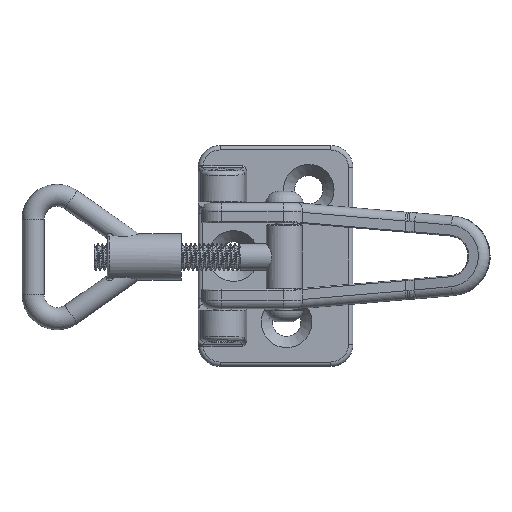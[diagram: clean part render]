
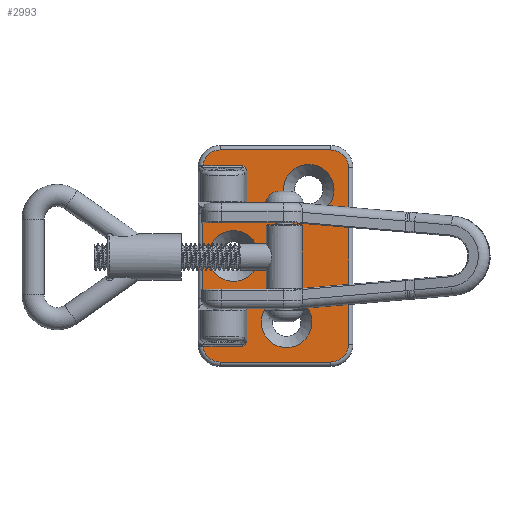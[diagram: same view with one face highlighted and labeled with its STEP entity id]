
A CAD part, top view. The second image highlights one B-rep face of the part: STEP entity #2993.
In plain terms, the highlighted planar face has unit normal (0, 0, 1).
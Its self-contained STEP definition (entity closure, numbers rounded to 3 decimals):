
#128=B_SPLINE_CURVE_WITH_KNOTS('',3,(#4658,#4659,#4660,#4661,#4662),
 .UNSPECIFIED.,.F.,.F.,(4,1,4),(0.,0.001,0.002),
 .UNSPECIFIED.);
#129=B_SPLINE_CURVE_WITH_KNOTS('',3,(#4682,#4683,#4684,#4685,#4686),
 .UNSPECIFIED.,.F.,.F.,(4,1,4),(0.,0.001,0.002),
 .UNSPECIFIED.);
#213=PLANE('',#3260);
#269=CIRCLE('',#3261,5.735);
#270=CIRCLE('',#3262,5.735);
#271=CIRCLE('',#3263,5.735);
#272=CIRCLE('',#3264,4.);
#273=CIRCLE('',#3265,4.);
#274=CIRCLE('',#3266,4.);
#275=CIRCLE('',#3267,4.);
#523=ORIENTED_EDGE('',*,*,#1430,.T.);
#524=ORIENTED_EDGE('',*,*,#1431,.T.);
#525=ORIENTED_EDGE('',*,*,#1432,.T.);
#526=ORIENTED_EDGE('',*,*,#1433,.T.);
#527=ORIENTED_EDGE('',*,*,#1434,.T.);
#528=ORIENTED_EDGE('',*,*,#1435,.T.);
#529=ORIENTED_EDGE('',*,*,#1417,.T.);
#530=ORIENTED_EDGE('',*,*,#1436,.T.);
#531=ORIENTED_EDGE('',*,*,#1437,.T.);
#532=ORIENTED_EDGE('',*,*,#1438,.T.);
#533=ORIENTED_EDGE('',*,*,#1439,.T.);
#534=ORIENTED_EDGE('',*,*,#1440,.T.);
#535=ORIENTED_EDGE('',*,*,#1441,.T.);
#536=ORIENTED_EDGE('',*,*,#1442,.T.);
#537=ORIENTED_EDGE('',*,*,#1443,.T.);
#538=ORIENTED_EDGE('',*,*,#1444,.T.);
#539=ORIENTED_EDGE('',*,*,#1445,.T.);
#540=ORIENTED_EDGE('',*,*,#1446,.T.);
#541=ORIENTED_EDGE('',*,*,#1447,.F.);
#1417=EDGE_CURVE('',#1871,#1870,#2159,.T.);
#1430=EDGE_CURVE('',#1882,#1882,#269,.T.);
#1431=EDGE_CURVE('',#1883,#1883,#270,.T.);
#1432=EDGE_CURVE('',#1884,#1884,#271,.T.);
#1433=EDGE_CURVE('',#1885,#1886,#2167,.T.);
#1434=EDGE_CURVE('',#1886,#1887,#2168,.F.);
#1435=EDGE_CURVE('',#1887,#1871,#2169,.F.);
#1436=EDGE_CURVE('',#1870,#1888,#128,.T.);
#1437=EDGE_CURVE('',#1888,#1889,#2170,.T.);
#1438=EDGE_CURVE('',#1889,#1890,#272,.F.);
#1439=EDGE_CURVE('',#1890,#1891,#2171,.F.);
#1440=EDGE_CURVE('',#1891,#1892,#273,.F.);
#1441=EDGE_CURVE('',#1892,#1893,#2172,.F.);
#1442=EDGE_CURVE('',#1893,#1894,#274,.F.);
#1443=EDGE_CURVE('',#1894,#1895,#2173,.F.);
#1444=EDGE_CURVE('',#1895,#1896,#275,.F.);
#1445=EDGE_CURVE('',#1896,#1897,#2174,.F.);
#1446=EDGE_CURVE('',#1897,#1898,#129,.F.);
#1447=EDGE_CURVE('',#1885,#1898,#2175,.T.);
#1870=VERTEX_POINT('',#4619);
#1871=VERTEX_POINT('',#4621);
#1882=VERTEX_POINT('',#4647);
#1883=VERTEX_POINT('',#4649);
#1884=VERTEX_POINT('',#4651);
#1885=VERTEX_POINT('',#4653);
#1886=VERTEX_POINT('',#4654);
#1887=VERTEX_POINT('',#4656);
#1888=VERTEX_POINT('',#4663);
#1889=VERTEX_POINT('',#4665);
#1890=VERTEX_POINT('',#4667);
#1891=VERTEX_POINT('',#4669);
#1892=VERTEX_POINT('',#4671);
#1893=VERTEX_POINT('',#4673);
#1894=VERTEX_POINT('',#4675);
#1895=VERTEX_POINT('',#4677);
#1896=VERTEX_POINT('',#4679);
#1897=VERTEX_POINT('',#4681);
#1898=VERTEX_POINT('',#4687);
#2159=LINE('',#4620,#2296);
#2167=LINE('',#4652,#2304);
#2168=LINE('',#4655,#2305);
#2169=LINE('',#4657,#2306);
#2170=LINE('',#4664,#2307);
#2171=LINE('',#4668,#2308);
#2172=LINE('',#4672,#2309);
#2173=LINE('',#4676,#2310);
#2174=LINE('',#4680,#2311);
#2175=LINE('',#4688,#2312);
#2296=VECTOR('',#3669,1000.);
#2304=VECTOR('',#3697,1000.);
#2305=VECTOR('',#3698,1000.);
#2306=VECTOR('',#3699,1000.);
#2307=VECTOR('',#3700,1000.);
#2308=VECTOR('',#3703,1000.);
#2309=VECTOR('',#3706,1000.);
#2310=VECTOR('',#3709,1000.);
#2311=VECTOR('',#3712,1000.);
#2312=VECTOR('',#3713,1000.);
#2430=EDGE_LOOP('',(#523));
#2431=EDGE_LOOP('',(#524));
#2432=EDGE_LOOP('',(#525));
#2433=EDGE_LOOP('',(#526,#527,#528,#529,#530,#531,#532,#533,#534,#535,#536,
#537,#538,#539,#540,#541));
#2676=FACE_BOUND('',#2430,.T.);
#2677=FACE_BOUND('',#2431,.T.);
#2678=FACE_BOUND('',#2432,.T.);
#2679=FACE_BOUND('',#2433,.T.);
#2993=ADVANCED_FACE('',(#2676,#2677,#2678,#2679),#213,.F.);
#3260=AXIS2_PLACEMENT_3D('',#4645,#3689,#3690);
#3261=AXIS2_PLACEMENT_3D('',#4646,#3691,#3692);
#3262=AXIS2_PLACEMENT_3D('',#4648,#3693,#3694);
#3263=AXIS2_PLACEMENT_3D('',#4650,#3695,#3696);
#3264=AXIS2_PLACEMENT_3D('',#4666,#3701,#3702);
#3265=AXIS2_PLACEMENT_3D('',#4670,#3704,#3705);
#3266=AXIS2_PLACEMENT_3D('',#4674,#3707,#3708);
#3267=AXIS2_PLACEMENT_3D('',#4678,#3710,#3711);
#3669=DIRECTION('',(-1.,0.,0.));
#3689=DIRECTION('',(0.,0.,-1.));
#3690=DIRECTION('',(-1.,0.,0.));
#3691=DIRECTION('',(0.,0.,-1.));
#3692=DIRECTION('',(0.,1.,0.));
#3693=DIRECTION('',(0.,0.,-1.));
#3694=DIRECTION('',(0.,1.,0.));
#3695=DIRECTION('',(0.,0.,-1.));
#3696=DIRECTION('',(0.,1.,0.));
#3697=DIRECTION('',(0.,1.,0.));
#3698=DIRECTION('',(1.,0.,0.));
#3699=DIRECTION('',(0.,1.,0.));
#3700=DIRECTION('',(0.,1.,0.));
#3701=DIRECTION('',(0.,0.,-1.));
#3702=DIRECTION('',(-1.,0.,0.));
#3703=DIRECTION('',(0.,1.,0.));
#3704=DIRECTION('',(0.,0.,-1.));
#3705=DIRECTION('',(-1.,0.,0.));
#3706=DIRECTION('',(-1.,0.,0.));
#3707=DIRECTION('',(0.,0.,-1.));
#3708=DIRECTION('',(-1.,0.,0.));
#3709=DIRECTION('',(0.,-1.,0.));
#3710=DIRECTION('',(0.,0.,-1.));
#3711=DIRECTION('',(-1.,0.,0.));
#3712=DIRECTION('',(0.,1.,0.));
#3713=DIRECTION('',(1.,0.,0.));
#4619=CARTESIAN_POINT('',(-19.079,6.5,3.));
#4620=CARTESIAN_POINT('',(-11.,6.5,3.));
#4621=CARTESIAN_POINT('',(-9.677,6.5,3.));
#4645=CARTESIAN_POINT('',(0.,0.,3.));
#4646=CARTESIAN_POINT('',(15.,-7.5,3.));
#4647=CARTESIAN_POINT('',(15.,-1.765,3.));
#4648=CARTESIAN_POINT('',(-15.,-2.5,3.));
#4649=CARTESIAN_POINT('',(-15.,3.235,3.));
#4650=CARTESIAN_POINT('',(0.,9.5,3.));
#4651=CARTESIAN_POINT('',(0.,15.235,3.));
#4652=CARTESIAN_POINT('',(9.677,0.,3.));
#4653=CARTESIAN_POINT('',(9.677,6.5,3.));
#4654=CARTESIAN_POINT('',(9.677,16.5,3.));
#4655=CARTESIAN_POINT('',(-9.677,16.5,3.));
#4656=CARTESIAN_POINT('',(-9.677,16.5,3.));
#4657=CARTESIAN_POINT('',(-9.677,0.,3.));
#4658=CARTESIAN_POINT('',(-19.079,6.5,3.));
#4659=CARTESIAN_POINT('',(-19.372,6.5,3.));
#4660=CARTESIAN_POINT('',(-19.937,6.729,3.));
#4661=CARTESIAN_POINT('',(-20.299,7.196,3.));
#4662=CARTESIAN_POINT('',(-20.466,7.433,3.));
#4663=CARTESIAN_POINT('',(-20.466,7.433,3.));
#4664=CARTESIAN_POINT('',(-20.466,0.,3.));
#4665=CARTESIAN_POINT('',(-20.466,16.473,3.));
#4666=CARTESIAN_POINT('',(-20.,12.5,3.));
#4667=CARTESIAN_POINT('',(-24.,12.5,3.));
#4668=CARTESIAN_POINT('',(-24.,-12.5,3.));
#4669=CARTESIAN_POINT('',(-24.,-12.5,3.));
#4670=CARTESIAN_POINT('',(-20.,-12.5,3.));
#4671=CARTESIAN_POINT('',(-20.,-16.5,3.));
#4672=CARTESIAN_POINT('',(20.,-16.5,3.));
#4673=CARTESIAN_POINT('',(20.,-16.5,3.));
#4674=CARTESIAN_POINT('',(20.,-12.5,3.));
#4675=CARTESIAN_POINT('',(24.,-12.5,3.));
#4676=CARTESIAN_POINT('',(24.,12.5,3.));
#4677=CARTESIAN_POINT('',(24.,12.5,3.));
#4678=CARTESIAN_POINT('',(20.,12.5,3.));
#4679=CARTESIAN_POINT('',(20.466,16.473,3.));
#4680=CARTESIAN_POINT('',(20.466,6.5,3.));
#4681=CARTESIAN_POINT('',(20.466,7.433,3.));
#4682=CARTESIAN_POINT('',(19.079,6.5,3.));
#4683=CARTESIAN_POINT('',(19.372,6.5,3.));
#4684=CARTESIAN_POINT('',(19.937,6.729,3.));
#4685=CARTESIAN_POINT('',(20.299,7.196,3.));
#4686=CARTESIAN_POINT('',(20.466,7.433,3.));
#4687=CARTESIAN_POINT('',(19.079,6.5,3.));
#4688=CARTESIAN_POINT('',(11.,6.5,3.));
